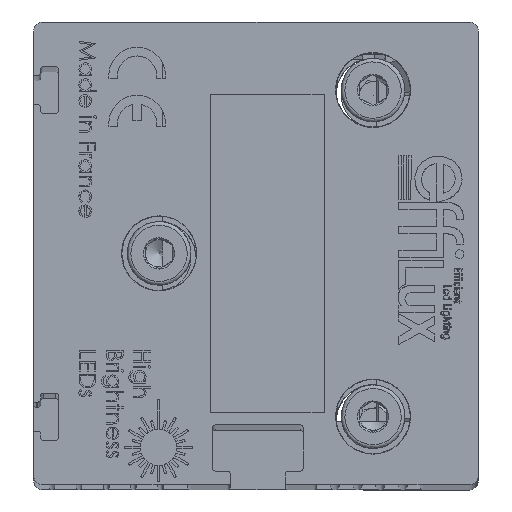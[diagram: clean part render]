
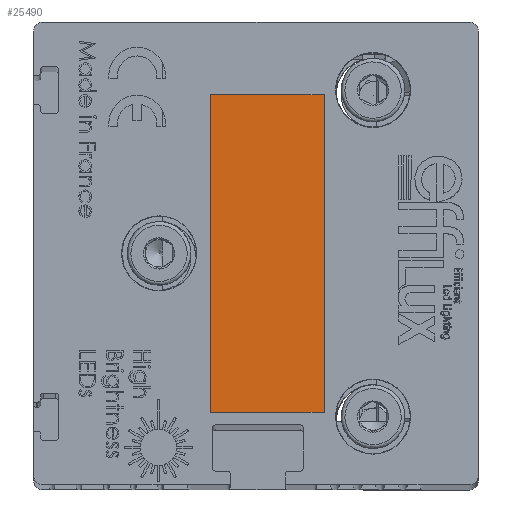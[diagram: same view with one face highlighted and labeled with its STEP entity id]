
A CAD part, top view. The second image highlights one B-rep face of the part: STEP entity #25490.
In plain terms, the highlighted planar face has unit normal (0, 0, 1).
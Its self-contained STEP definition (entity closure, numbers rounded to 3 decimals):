
#2918 = CARTESIAN_POINT ( 'NONE',  ( 7.5, 17.5, 334.9 ) ) ;
#5157 = FACE_OUTER_BOUND ( 'NONE', #47615, .T. ) ;
#9793 = CARTESIAN_POINT ( 'NONE',  ( -5., 17.5, 334.9 ) ) ;
#11900 = LINE ( 'NONE', #123678, #64651 ) ;
#12467 = CARTESIAN_POINT ( 'NONE',  ( -5., 17.5, 334.9 ) ) ;
#13177 = CARTESIAN_POINT ( 'NONE',  ( 7.5, -17.5, 334.9 ) ) ;
#14437 = VERTEX_POINT ( 'NONE', #91603 ) ;
#15870 = PLANE ( 'NONE',  #56081 ) ;
#16047 = EDGE_CURVE ( 'NONE', #33020, #52878, #11900, .T. ) ;
#17700 = EDGE_CURVE ( 'NONE', #14437, #33020, #52385, .T. ) ;
#17768 = DIRECTION ( 'NONE',  ( 0., -1., 0. ) ) ;
#23676 = VECTOR ( 'NONE', #108209, 1000. ) ;
#25490 = ADVANCED_FACE ( 'NONE', ( #5157 ), #15870, .T. ) ;
#33020 = VERTEX_POINT ( 'NONE', #97920 ) ;
#36448 = DIRECTION ( 'NONE',  ( 1., 0., 0. ) ) ;
#37874 = VECTOR ( 'NONE', #102058, 1000. ) ;
#40873 = LINE ( 'NONE', #2918, #37874 ) ;
#41798 = ORIENTED_EDGE ( 'NONE', *, *, #63811, .T. ) ;
#45328 = CARTESIAN_POINT ( 'NONE',  ( -5., 17.5, 334.9 ) ) ;
#47615 = EDGE_LOOP ( 'NONE', ( #105139, #41798, #62802, #48040 ) ) ;
#48040 = ORIENTED_EDGE ( 'NONE', *, *, #16047, .T. ) ;
#49439 = VERTEX_POINT ( 'NONE', #12467 ) ;
#52385 = LINE ( 'NONE', #13177, #23676 ) ;
#52878 = VERTEX_POINT ( 'NONE', #56217 ) ;
#53984 = LINE ( 'NONE', #9793, #81135 ) ;
#56081 = AXIS2_PLACEMENT_3D ( 'NONE', #45328, #64661, #36448 ) ;
#56217 = CARTESIAN_POINT ( 'NONE',  ( 7.5, 17.5, 334.9 ) ) ;
#62802 = ORIENTED_EDGE ( 'NONE', *, *, #17700, .T. ) ;
#63811 = EDGE_CURVE ( 'NONE', #49439, #14437, #53984, .T. ) ;
#64651 = VECTOR ( 'NONE', #74578, 1000. ) ;
#64661 = DIRECTION ( 'NONE',  ( 0., 0., 1. ) ) ;
#74578 = DIRECTION ( 'NONE',  ( 0., 1., 0. ) ) ;
#81135 = VECTOR ( 'NONE', #17768, 1000. ) ;
#91603 = CARTESIAN_POINT ( 'NONE',  ( -5., -17.5, 334.9 ) ) ;
#97920 = CARTESIAN_POINT ( 'NONE',  ( 7.5, -17.5, 334.9 ) ) ;
#102058 = DIRECTION ( 'NONE',  ( -1., 0., 0. ) ) ;
#103837 = EDGE_CURVE ( 'NONE', #52878, #49439, #40873, .T. ) ;
#105139 = ORIENTED_EDGE ( 'NONE', *, *, #103837, .T. ) ;
#108209 = DIRECTION ( 'NONE',  ( 1., 0., 0. ) ) ;
#123678 = CARTESIAN_POINT ( 'NONE',  ( 7.5, 17.5, 334.9 ) ) ;
